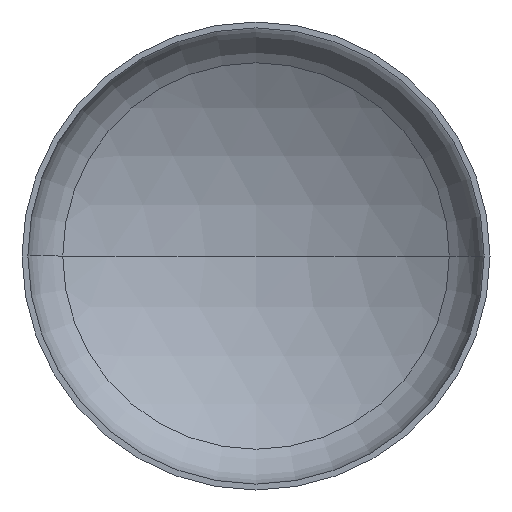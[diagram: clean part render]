
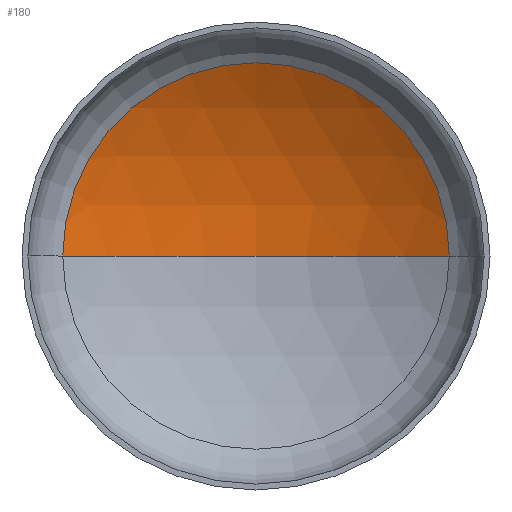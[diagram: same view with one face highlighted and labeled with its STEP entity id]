
A CAD part, front view. The second image highlights one B-rep face of the part: STEP entity #180.
In plain terms, the highlighted spherical face has radius 5200 mm.
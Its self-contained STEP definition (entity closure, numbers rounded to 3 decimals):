
#2 = EDGE_LOOP ( 'NONE', ( #378, #271, #85 ) ) ;
#14 = CARTESIAN_POINT ( 'NONE',  ( 0., 956.474, 0. ) ) ;
#28 = CARTESIAN_POINT ( 'NONE',  ( 0., 1702.81, 0. ) ) ;
#31 = DIRECTION ( 'NONE',  ( 0., 0., -1. ) ) ;
#39 = AXIS2_PLACEMENT_3D ( 'NONE', #339, #31, #264 ) ;
#47 = DIRECTION ( 'NONE',  ( 0., 0., -1. ) ) ;
#49 = CARTESIAN_POINT ( 'NONE',  ( 0., -3497.19, 0. ) ) ;
#72 = AXIS2_PLACEMENT_3D ( 'NONE', #178, #204, #373 ) ;
#73 = DIRECTION ( 'NONE',  ( -1., 0., 0. ) ) ;
#80 = AXIS2_PLACEMENT_3D ( 'NONE', #49, #47, #73 ) ;
#82 = AXIS2_PLACEMENT_3D ( 'NONE', #14, #208, #294 ) ;
#85 = ORIENTED_EDGE ( 'NONE', *, *, #137, .T. ) ;
#118 = CIRCLE ( 'NONE', #82, 2684.19 ) ;
#137 = EDGE_CURVE ( 'NONE', #157, #258, #118, .T. ) ;
#138 = EDGE_CURVE ( 'NONE', #163, #157, #336, .T. ) ;
#142 = EDGE_CURVE ( 'NONE', #163, #258, #270, .T. ) ;
#157 = VERTEX_POINT ( 'NONE', #213 ) ;
#163 = VERTEX_POINT ( 'NONE', #28 ) ;
#176 = FACE_OUTER_BOUND ( 'NONE', #2, .T. ) ;
#178 = CARTESIAN_POINT ( 'NONE',  ( 0., -3497.19, 0. ) ) ;
#180 = ADVANCED_FACE ( 'NONE', ( #176 ), #391, .F. ) ;
#204 = DIRECTION ( 'NONE',  ( 0., 0., 1. ) ) ;
#208 = DIRECTION ( 'NONE',  ( 0., -1., 0. ) ) ;
#213 = CARTESIAN_POINT ( 'NONE',  ( 2684.19, 956.474, 0. ) ) ;
#258 = VERTEX_POINT ( 'NONE', #400 ) ;
#264 = DIRECTION ( 'NONE',  ( -1., 0., 0. ) ) ;
#270 = CIRCLE ( 'NONE', #72, 5200. ) ;
#271 = ORIENTED_EDGE ( 'NONE', *, *, #138, .T. ) ;
#294 = DIRECTION ( 'NONE',  ( 1., 0., 0. ) ) ;
#336 = CIRCLE ( 'NONE', #80, 5200. ) ;
#339 = CARTESIAN_POINT ( 'NONE',  ( 0., -3497.19, 0. ) ) ;
#373 = DIRECTION ( 'NONE',  ( 1., 0., 0. ) ) ;
#378 = ORIENTED_EDGE ( 'NONE', *, *, #142, .F. ) ;
#391 = SPHERICAL_SURFACE ( 'NONE', #39, 5200. ) ;
#400 = CARTESIAN_POINT ( 'NONE',  ( -2684.19, 956.474, 0. ) ) ;
